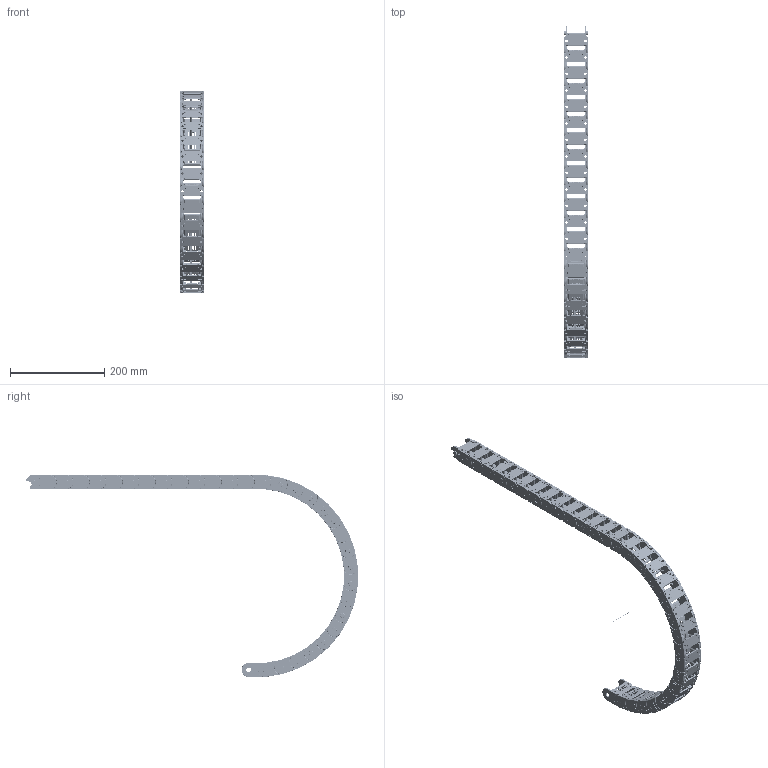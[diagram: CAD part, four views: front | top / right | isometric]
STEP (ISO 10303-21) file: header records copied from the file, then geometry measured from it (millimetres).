
FILE_DESCRIPTION((''),'2;1');
FILE_NAME('C:\Uebbing\PARAMETERKETTEN\KOLIBRI\Kol_30_050_1\KOLIBRI 30_050_1_PARAMETRISCH.stp','2011-11-02T11:42:50',('Uebbing'),(''),'Autodesk Inventor 10','Autodesk Inventor 10','');
FILE_SCHEMA(('AUTOMOTIVE_DESIGN { 1 0 10303 214 1 1 1 1 }'));
Length unit declared in the file: millimetre
Products named in the file (6): KOLIBRI 30_050_1_PARAMETRISCH; Achse; Kol_30_050_1; PZ 30 Stecksteg; Kol 30_050_1 Lasche; Kol 30_050_0 Klappsteg
Assembly tree (36 placements, depth 3):
  KOLIBRI 30_050_1_PARAMETRISCH
    Achse
    Kol_30_050_1  x32
      PZ 30 Stecksteg
      Kol 30_050_1 Lasche
      Kol 30_050_0 Klappsteg
Bounding box: 50 x 704.01 x 428.67 mm (x, y, z)
Volume: 473036.7 mm3; surface area: 479394.6 mm2
Topology: 97 solids, 97 shells, 30563 faces, 83524 edges, 54723 vertices
Faces by surface type: plane 15394, bspline 7360, cylinder 6049, torus 1376, cone 256, sphere 128
Full cylindrical faces by diameter (mm): 1 x1, 1.166 x32, 2.048 x32, 2.8 x256, 5.1 x64, 10 x32, 10.1 x64
Entity records: 33250 total; most frequent: CARTESIAN_POINT 9841, ORIENTED_EDGE 5142, DIRECTION 4234, EDGE_CURVE 2571, VERTEX_POINT 1699, VECTOR 1612, LINE 1612, AXIS2_PLACEMENT_3D 1311
